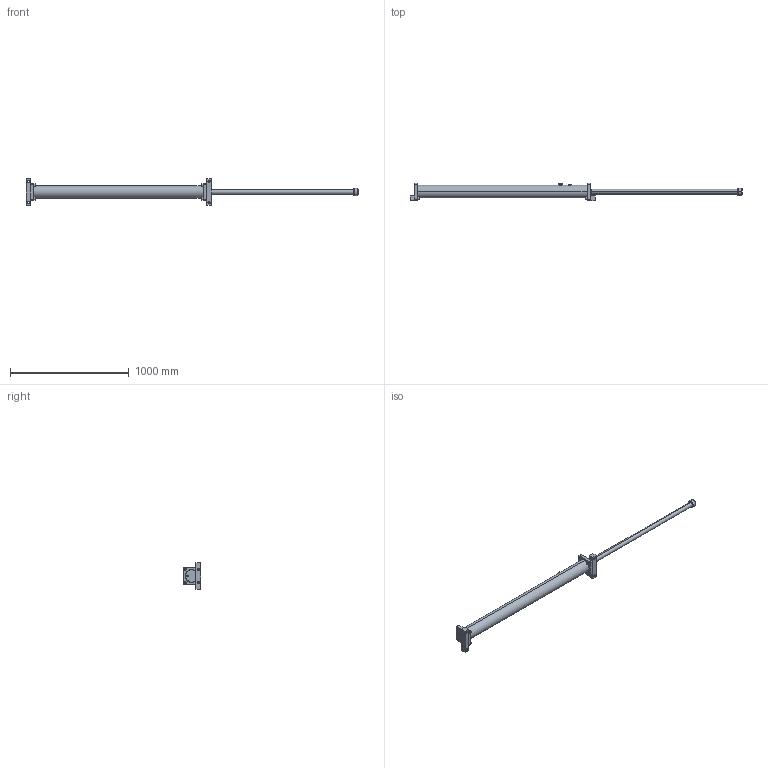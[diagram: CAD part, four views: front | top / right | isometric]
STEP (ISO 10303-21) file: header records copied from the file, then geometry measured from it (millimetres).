
FILE_DESCRIPTION (( 'STEP AP214' ), '1' );
FILE_NAME ('LDD2.0X48.STEP', '2019-01-16T06:43:30', ( 'user' ), ( 'Microsoft' ), 'SwSTEP 2.0', 'SolidWorks 2016', '' );
FILE_SCHEMA (( 'AUTOMOTIVE_DESIGN' ));
Length unit declared in the file: inch
Products named in the file (1): LDD2.0X48
Bounding box: 2791 x 145.5 x 220 mm (x, y, z)
Surface area: 869689.4 mm2 (no closed solid volume)
Topology: 0 solids, 25 shells, 238 faces, 666 edges, 450 vertices
Faces by surface type: plane 88, cylinder 66, cone 56, bspline 28
Entity records: 13361 total; most frequent: CARTESIAN_POINT 7354, DIRECTION 1247, ORIENTED_EDGE 1129, EDGE_CURVE 666, AXIS2_PLACEMENT_3D 477, VERTEX_POINT 450, EDGE_LOOP 294, VECTOR 293
